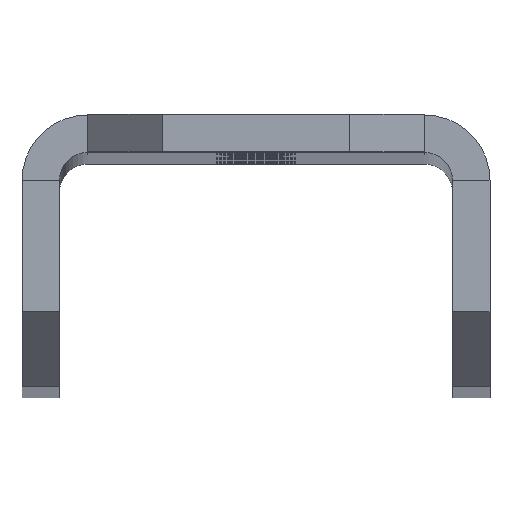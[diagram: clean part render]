
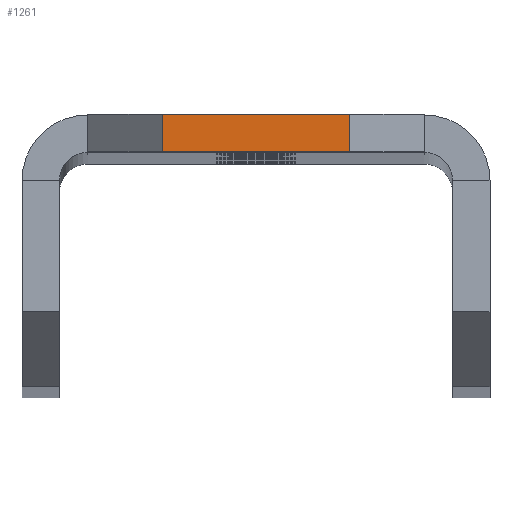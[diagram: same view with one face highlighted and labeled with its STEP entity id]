
A CAD part, top view. The second image highlights one B-rep face of the part: STEP entity #1261.
In plain terms, the highlighted planar face has unit normal (0, 0, 1).
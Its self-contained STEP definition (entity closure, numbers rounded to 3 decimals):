
#1 = EDGE_CURVE ( 'NONE', #1708, #950, #2089, .T. ) ;
#236 = EDGE_CURVE ( 'NONE', #2263, #2554, #1192, .T. ) ;
#257 = CARTESIAN_POINT ( 'NONE',  ( 5., 0., 205.155 ) ) ;
#342 = FACE_OUTER_BOUND ( 'NONE', #2955, .T. ) ;
#409 = ORIENTED_EDGE ( 'NONE', *, *, #1109, .F. ) ;
#414 = CARTESIAN_POINT ( 'NONE',  ( -5., 0., 205.155 ) ) ;
#590 = ORIENTED_EDGE ( 'NONE', *, *, #236, .T. ) ;
#735 = VECTOR ( 'NONE', #1434, 1000. ) ;
#883 = VECTOR ( 'NONE', #2297, 1000. ) ;
#950 = VERTEX_POINT ( 'NONE', #1318 ) ;
#961 = ORIENTED_EDGE ( 'NONE', *, *, #1, .T. ) ;
#1039 = VECTOR ( 'NONE', #2481, 1000. ) ;
#1103 = CARTESIAN_POINT ( 'NONE',  ( 9., 0., 205.155 ) ) ;
#1109 = EDGE_CURVE ( 'NONE', #2263, #950, #1607, .T. ) ;
#1135 = CARTESIAN_POINT ( 'NONE',  ( 5., -2., 205.155 ) ) ;
#1192 = LINE ( 'NONE', #257, #735 ) ;
#1261 = ADVANCED_FACE ( 'NONE', ( #342 ), #3059, .T. ) ;
#1318 = CARTESIAN_POINT ( 'NONE',  ( -5., -2., 205.155 ) ) ;
#1351 = DIRECTION ( 'NONE',  ( 0., 0., 1. ) ) ;
#1434 = DIRECTION ( 'NONE',  ( 0., 1., 0. ) ) ;
#1450 = VECTOR ( 'NONE', #2025, 1000. ) ;
#1607 = LINE ( 'NONE', #2036, #883 ) ;
#1708 = VERTEX_POINT ( 'NONE', #414 ) ;
#1788 = CARTESIAN_POINT ( 'NONE',  ( 5., 0., 205.155 ) ) ;
#2025 = DIRECTION ( 'NONE',  ( -1., 0., 0. ) ) ;
#2036 = CARTESIAN_POINT ( 'NONE',  ( 9., -2., 205.155 ) ) ;
#2037 = CARTESIAN_POINT ( 'NONE',  ( 9., 0., 205.155 ) ) ;
#2064 = DIRECTION ( 'NONE',  ( 0., -1., 0. ) ) ;
#2089 = LINE ( 'NONE', #2237, #1039 ) ;
#2237 = CARTESIAN_POINT ( 'NONE',  ( -5., 0., 205.155 ) ) ;
#2263 = VERTEX_POINT ( 'NONE', #1135 ) ;
#2297 = DIRECTION ( 'NONE',  ( -1., 0., 0. ) ) ;
#2460 = LINE ( 'NONE', #2037, #1450 ) ;
#2481 = DIRECTION ( 'NONE',  ( 0., -1., 0. ) ) ;
#2554 = VERTEX_POINT ( 'NONE', #1788 ) ;
#2558 = ORIENTED_EDGE ( 'NONE', *, *, #3026, .T. ) ;
#2565 = AXIS2_PLACEMENT_3D ( 'NONE', #1103, #1351, #2064 ) ;
#2955 = EDGE_LOOP ( 'NONE', ( #409, #590, #2558, #961 ) ) ;
#3026 = EDGE_CURVE ( 'NONE', #2554, #1708, #2460, .T. ) ;
#3059 = PLANE ( 'NONE',  #2565 ) ;
